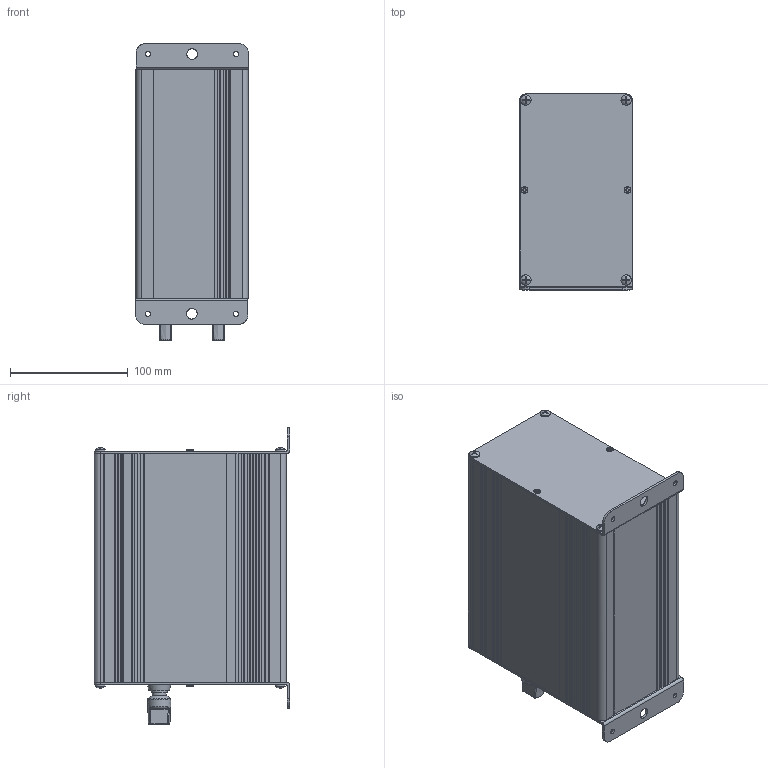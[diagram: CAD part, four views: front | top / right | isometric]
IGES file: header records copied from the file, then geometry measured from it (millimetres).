
Global section: file name: LB-25V35AH; native system: Autodesk Inventor 2021; preprocessor: unknown; author: eunsol jang; date: 20221206.121158; units: inch
Bounding box: 95.73 x 166.4 x 252.7 mm (x, y, z)
Volume: 354803.6 mm3; surface area: 299262.1 mm2
Topology: 1 solids, 1 shells, 754 faces, 2206 edges, 1442 vertices
Faces by surface type: bspline 754
